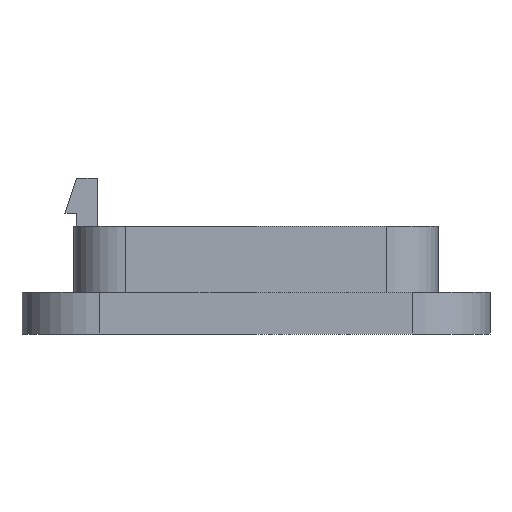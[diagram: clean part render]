
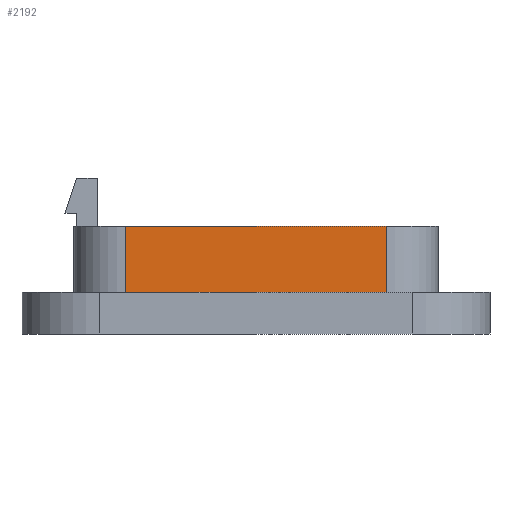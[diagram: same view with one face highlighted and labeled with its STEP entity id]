
A CAD part, left-side view. The second image highlights one B-rep face of the part: STEP entity #2192.
In plain terms, the highlighted planar face has unit normal (-1, 0, 0).
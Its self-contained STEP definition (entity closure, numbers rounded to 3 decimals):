
#100 = PLANE('',#101);
#101 = AXIS2_PLACEMENT_3D('',#102,#103,#104);
#102 = CARTESIAN_POINT('',(0.,0.,1.6));
#103 = DIRECTION('',(0.,0.,1.));
#104 = DIRECTION('',(1.,0.,-0.));
#855 = VERTEX_POINT('',#856);
#856 = CARTESIAN_POINT('',(-14.,-5.,1.6));
#871 = CYLINDRICAL_SURFACE('',#872,2.);
#872 = AXIS2_PLACEMENT_3D('',#873,#874,#875);
#873 = CARTESIAN_POINT('',(-12.,-5.,1.55));
#874 = DIRECTION('',(0.,0.,1.));
#875 = DIRECTION('',(0.,-1.,0.));
#883 = EDGE_CURVE('',#855,#884,#886,.T.);
#884 = VERTEX_POINT('',#885);
#885 = CARTESIAN_POINT('',(-14.,5.,1.6));
#886 = SURFACE_CURVE('',#887,(#891,#897),.PCURVE_S1.);
#887 = LINE('',#888,#889);
#888 = CARTESIAN_POINT('',(-14.,3.5,1.6));
#889 = VECTOR('',#890,1.);
#890 = DIRECTION('',(-0.,1.,0.));
#891 = PCURVE('',#100,#892);
#892 = DEFINITIONAL_REPRESENTATION('',(#893),#896);
#893 = B_SPLINE_CURVE_WITH_KNOTS('',1,(#894,#895),.UNSPECIFIED.,.F.,.F.,
  (2,2),(-8.5,1.5),.PIECEWISE_BEZIER_KNOTS.);
#894 = CARTESIAN_POINT('',(-14.,-5.));
#895 = CARTESIAN_POINT('',(-14.,5.));
#896 = ( GEOMETRIC_REPRESENTATION_CONTEXT(2) 
PARAMETRIC_REPRESENTATION_CONTEXT() REPRESENTATION_CONTEXT('2D SPACE',''
  ) );
#897 = PCURVE('',#898,#903);
#898 = PLANE('',#899);
#899 = AXIS2_PLACEMENT_3D('',#900,#901,#902);
#900 = CARTESIAN_POINT('',(-14.,7.,1.55));
#901 = DIRECTION('',(1.,0.,-0.));
#902 = DIRECTION('',(0.,-1.,0.));
#903 = DEFINITIONAL_REPRESENTATION('',(#904),#907);
#904 = B_SPLINE_CURVE_WITH_KNOTS('',1,(#905,#906),.UNSPECIFIED.,.F.,.F.,
  (2,2),(-8.5,1.5),.PIECEWISE_BEZIER_KNOTS.);
#905 = CARTESIAN_POINT('',(12.,-0.05));
#906 = CARTESIAN_POINT('',(2.,-0.05));
#907 = ( GEOMETRIC_REPRESENTATION_CONTEXT(2) 
PARAMETRIC_REPRESENTATION_CONTEXT() REPRESENTATION_CONTEXT('2D SPACE',''
  ) );
#926 = CYLINDRICAL_SURFACE('',#927,2.);
#927 = AXIS2_PLACEMENT_3D('',#928,#929,#930);
#928 = CARTESIAN_POINT('',(-12.,5.,1.55));
#929 = DIRECTION('',(0.,0.,1.));
#930 = DIRECTION('',(-0.,1.,0.));
#2083 = PLANE('',#2084);
#2084 = AXIS2_PLACEMENT_3D('',#2085,#2086,#2087);
#2085 = CARTESIAN_POINT('',(0.,0.,4.15));
#2086 = DIRECTION('',(0.,0.,1.));
#2087 = DIRECTION('',(1.,0.,-0.));
#2148 = EDGE_CURVE('',#884,#2149,#2151,.T.);
#2149 = VERTEX_POINT('',#2150);
#2150 = CARTESIAN_POINT('',(-14.,5.,4.15));
#2151 = SURFACE_CURVE('',#2152,(#2156,#2163),.PCURVE_S1.);
#2152 = LINE('',#2153,#2154);
#2153 = CARTESIAN_POINT('',(-14.,5.,1.55));
#2154 = VECTOR('',#2155,1.);
#2155 = DIRECTION('',(0.,0.,1.));
#2156 = PCURVE('',#926,#2157);
#2157 = DEFINITIONAL_REPRESENTATION('',(#2158),#2162);
#2158 = LINE('',#2159,#2160);
#2159 = CARTESIAN_POINT('',(1.571,0.));
#2160 = VECTOR('',#2161,1.);
#2161 = DIRECTION('',(0.,1.));
#2162 = ( GEOMETRIC_REPRESENTATION_CONTEXT(2) 
PARAMETRIC_REPRESENTATION_CONTEXT() REPRESENTATION_CONTEXT('2D SPACE',''
  ) );
#2163 = PCURVE('',#898,#2164);
#2164 = DEFINITIONAL_REPRESENTATION('',(#2165),#2169);
#2165 = LINE('',#2166,#2167);
#2166 = CARTESIAN_POINT('',(2.,0.));
#2167 = VECTOR('',#2168,1.);
#2168 = DIRECTION('',(0.,-1.));
#2169 = ( GEOMETRIC_REPRESENTATION_CONTEXT(2) 
PARAMETRIC_REPRESENTATION_CONTEXT() REPRESENTATION_CONTEXT('2D SPACE',''
  ) );
#2192 = ADVANCED_FACE('',(#2193),#898,.F.);
#2193 = FACE_BOUND('',#2194,.F.);
#2194 = EDGE_LOOP('',(#2195,#2196,#2197,#2220));
#2195 = ORIENTED_EDGE('',*,*,#883,.T.);
#2196 = ORIENTED_EDGE('',*,*,#2148,.T.);
#2197 = ORIENTED_EDGE('',*,*,#2198,.T.);
#2198 = EDGE_CURVE('',#2149,#2199,#2201,.T.);
#2199 = VERTEX_POINT('',#2200);
#2200 = CARTESIAN_POINT('',(-14.,-5.,4.15));
#2201 = SURFACE_CURVE('',#2202,(#2206,#2213),.PCURVE_S1.);
#2202 = LINE('',#2203,#2204);
#2203 = CARTESIAN_POINT('',(-14.,7.,4.15));
#2204 = VECTOR('',#2205,1.);
#2205 = DIRECTION('',(0.,-1.,0.));
#2206 = PCURVE('',#898,#2207);
#2207 = DEFINITIONAL_REPRESENTATION('',(#2208),#2212);
#2208 = LINE('',#2209,#2210);
#2209 = CARTESIAN_POINT('',(0.,-2.6));
#2210 = VECTOR('',#2211,1.);
#2211 = DIRECTION('',(1.,0.));
#2212 = ( GEOMETRIC_REPRESENTATION_CONTEXT(2) 
PARAMETRIC_REPRESENTATION_CONTEXT() REPRESENTATION_CONTEXT('2D SPACE',''
  ) );
#2213 = PCURVE('',#2083,#2214);
#2214 = DEFINITIONAL_REPRESENTATION('',(#2215),#2219);
#2215 = LINE('',#2216,#2217);
#2216 = CARTESIAN_POINT('',(-14.,7.));
#2217 = VECTOR('',#2218,1.);
#2218 = DIRECTION('',(0.,-1.));
#2219 = ( GEOMETRIC_REPRESENTATION_CONTEXT(2) 
PARAMETRIC_REPRESENTATION_CONTEXT() REPRESENTATION_CONTEXT('2D SPACE',''
  ) );
#2220 = ORIENTED_EDGE('',*,*,#2221,.F.);
#2221 = EDGE_CURVE('',#855,#2199,#2222,.T.);
#2222 = SURFACE_CURVE('',#2223,(#2227,#2234),.PCURVE_S1.);
#2223 = LINE('',#2224,#2225);
#2224 = CARTESIAN_POINT('',(-14.,-5.,1.55));
#2225 = VECTOR('',#2226,1.);
#2226 = DIRECTION('',(0.,0.,1.));
#2227 = PCURVE('',#898,#2228);
#2228 = DEFINITIONAL_REPRESENTATION('',(#2229),#2233);
#2229 = LINE('',#2230,#2231);
#2230 = CARTESIAN_POINT('',(12.,0.));
#2231 = VECTOR('',#2232,1.);
#2232 = DIRECTION('',(0.,-1.));
#2233 = ( GEOMETRIC_REPRESENTATION_CONTEXT(2) 
PARAMETRIC_REPRESENTATION_CONTEXT() REPRESENTATION_CONTEXT('2D SPACE',''
  ) );
#2234 = PCURVE('',#871,#2235);
#2235 = DEFINITIONAL_REPRESENTATION('',(#2236),#2240);
#2236 = LINE('',#2237,#2238);
#2237 = CARTESIAN_POINT('',(-1.571,0.));
#2238 = VECTOR('',#2239,1.);
#2239 = DIRECTION('',(-0.,1.));
#2240 = ( GEOMETRIC_REPRESENTATION_CONTEXT(2) 
PARAMETRIC_REPRESENTATION_CONTEXT() REPRESENTATION_CONTEXT('2D SPACE',''
  ) );
